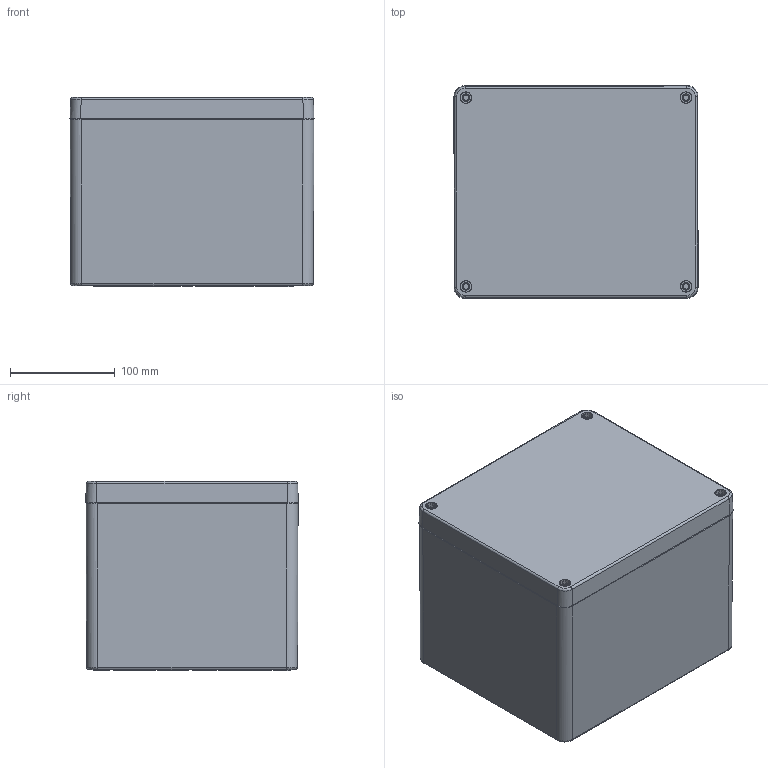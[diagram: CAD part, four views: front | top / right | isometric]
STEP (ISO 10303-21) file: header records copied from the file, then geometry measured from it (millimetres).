
FILE_DESCRIPTION (( 'STEP AP203' ), '1' );
FILE_NAME ('ALU ASSY 200230180.STEP', '2024-08-27T09:26:30', ( '' ), ( '' ), 'SwSTEP 2.0', 'SolidWorks 2018', '' );
FILE_SCHEMA (( 'CONFIG_CONTROL_DESIGN' ));
Products named in the file (3): ALU LID 200230180; ALU BASE 200230180; ALU ASSY 200230180
Assembly tree (2 placements, depth 2):
  ALU ASSY 200230180
    ALU BASE 200230180
    ALU LID 200230180
Bounding box: 232.71 x 202.77 x 180.47 mm (x, y, z)
Volume: 1516933.2 mm3; surface area: 506170.6 mm2
Topology: 2 solids, 2 shells, 1663 faces, 4388 edges, 2806 vertices
Faces by surface type: plane 901, bspline 453, cylinder 265, cone 44
Entity records: 67240 total; most frequent: CARTESIAN_POINT 29479, ORIENTED_EDGE 8716, DIRECTION 6085, EDGE_CURVE 4358, VECTOR 2875, LINE 2875, VERTEX_POINT 2806, EDGE_LOOP 1786
